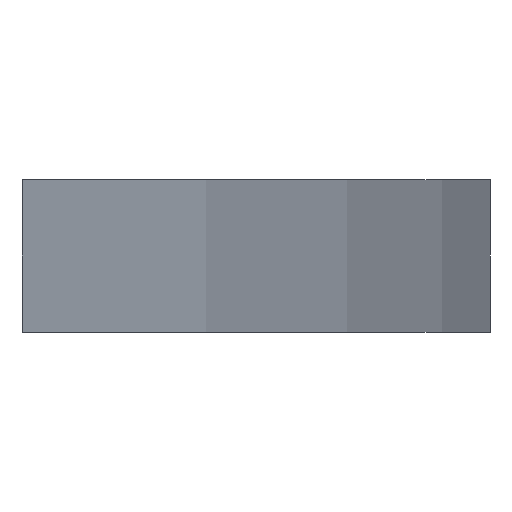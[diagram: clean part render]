
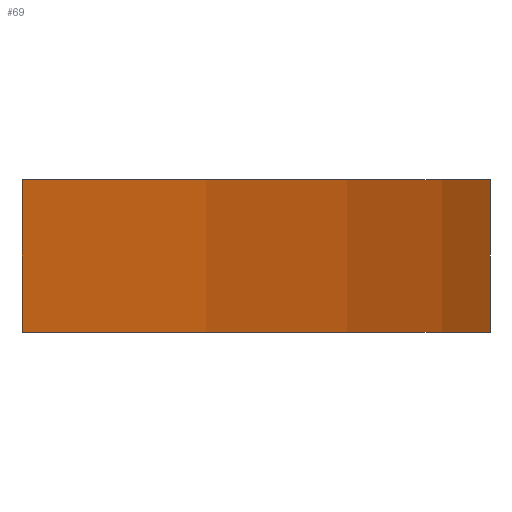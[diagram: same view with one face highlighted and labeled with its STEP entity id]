
A CAD part, left-side view. The second image highlights one B-rep face of the part: STEP entity #69.
In plain terms, the highlighted cylindrical face has radius 216 mm (diameter 432 mm), a partial arc.
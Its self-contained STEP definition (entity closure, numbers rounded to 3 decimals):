
#69 = ADVANCED_FACE( '', ( #129 ), #130, .T. );
#129 = FACE_OUTER_BOUND( '', #177, .T. );
#130 = CYLINDRICAL_SURFACE( '', #178, 216. );
#177 = EDGE_LOOP( '', ( #237, #238, #239, #240 ) );
#178 = AXIS2_PLACEMENT_3D( '', #241, #242, #243 );
#237 = ORIENTED_EDGE( '', *, *, #286, .T. );
#238 = ORIENTED_EDGE( '', *, *, #280, .F. );
#239 = ORIENTED_EDGE( '', *, *, #271, .F. );
#240 = ORIENTED_EDGE( '', *, *, #284, .T. );
#241 = CARTESIAN_POINT( '', ( 96., 184.997, 5. ) );
#242 = DIRECTION( '', ( 0., 0., 1. ) );
#243 = DIRECTION( '', ( -1., 0., 0. ) );
#271 = EDGE_CURVE( '', #300, #302, #303, .T. );
#280 = EDGE_CURVE( '', #302, #314, #316, .T. );
#284 = EDGE_CURVE( '', #300, #320, #322, .T. );
#286 = EDGE_CURVE( '', #320, #314, #324, .T. );
#300 = VERTEX_POINT( '', #338 );
#302 = VERTEX_POINT( '', #341 );
#303 = CIRCLE( '', #342, 216. );
#314 = VERTEX_POINT( '', #356 );
#316 = LINE( '', #359, #360 );
#320 = VERTEX_POINT( '', #364 );
#322 = LINE( '', #367, #368 );
#324 = CIRCLE( '', #370, 216. );
#338 = CARTESIAN_POINT( '', ( -15.5, 0., 5. ) );
#341 = CARTESIAN_POINT( '', ( 207.5, 0., 5. ) );
#342 = AXIS2_PLACEMENT_3D( '', #384, #385, #386 );
#356 = CARTESIAN_POINT( '', ( 207.5, 0., -5. ) );
#359 = CARTESIAN_POINT( '', ( 207.5, 0., 5. ) );
#360 = VECTOR( '', #397, 1000. );
#364 = CARTESIAN_POINT( '', ( -15.5, 0., -5. ) );
#367 = CARTESIAN_POINT( '', ( -15.5, 0., 5. ) );
#368 = VECTOR( '', #402, 1000. );
#370 = AXIS2_PLACEMENT_3D( '', #403, #404, #405 );
#384 = CARTESIAN_POINT( '', ( 96., 184.997, 5. ) );
#385 = DIRECTION( '', ( 0., 0., 1. ) );
#386 = DIRECTION( '', ( 1., 0., 0. ) );
#397 = DIRECTION( '', ( 0., 0., -1. ) );
#402 = DIRECTION( '', ( 0., 0., -1. ) );
#403 = CARTESIAN_POINT( '', ( 96., 184.997, -5. ) );
#404 = DIRECTION( '', ( 0., 0., 1. ) );
#405 = DIRECTION( '', ( 1., 0., 0. ) );
